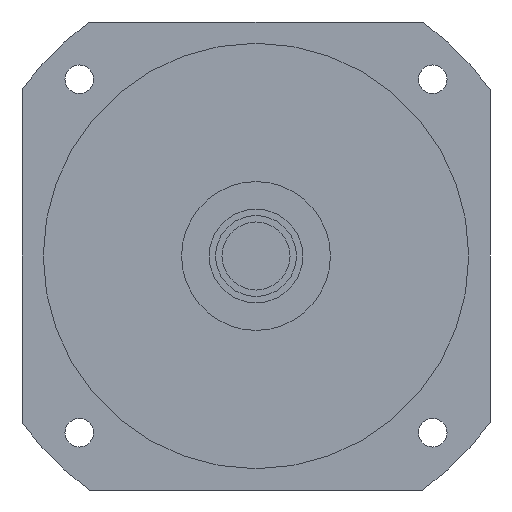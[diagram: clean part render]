
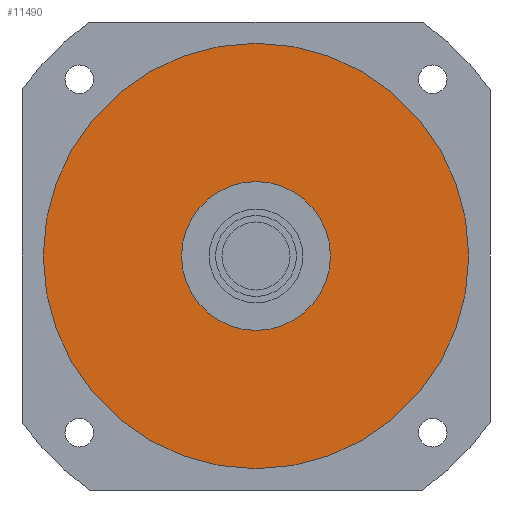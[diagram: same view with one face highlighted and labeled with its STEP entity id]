
A CAD part, left-side view. The second image highlights one B-rep face of the part: STEP entity #11490.
In plain terms, the highlighted planar face has unit normal (-1, 0, 0) as drawn and (0, 0, -1) by its records, which use the part's own axes.
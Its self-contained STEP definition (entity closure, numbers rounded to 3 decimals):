
#10930=CARTESIAN_POINT('',(-35.,0.,-79.7));
#10940=VERTEX_POINT('',#10930);
#10970=CARTESIAN_POINT('',(0.,0.,
-79.7));
#10980=DIRECTION('',(0.,0.,1.));
#10990=DIRECTION('',(0.,1.,0.));
#11000=AXIS2_PLACEMENT_3D('',#10970,#10980,#10990);
#11010=CIRCLE('',#11000,35.);
#11020=CARTESIAN_POINT('',(35.,0.,-79.7));
#11030=VERTEX_POINT('',#11020);
#11040=EDGE_CURVE('',#10940,#11030,#11010,.T.);
#11160=CARTESIAN_POINT('',(0.,0.,
-79.7));
#11170=DIRECTION('',(0.,0.,1.));
#11180=DIRECTION('',(-1.,0.,0.));
#11190=AXIS2_PLACEMENT_3D('',#11160,#11170,#11180);
#11200=PLANE('',#11190);
#11210=ORIENTED_EDGE('',*,*,#11040,.T.);
#11220=CARTESIAN_POINT('',(0.,35.,-79.7));
#11230=VERTEX_POINT('',#11220);
#11240=EDGE_CURVE('',#11230,#10940,#11010,.T.);
#11250=ORIENTED_EDGE('',*,*,#11240,.T.);
#11260=EDGE_CURVE('',#11030,#11230,#11010,.T.);
#11270=ORIENTED_EDGE('',*,*,#11260,.T.);
#11280=EDGE_LOOP('',(#11270,#11250,#11210));
#11290=FACE_BOUND('',#11280,.T.);
#11300=CARTESIAN_POINT('',(0.,0.,
-79.7));
#11310=DIRECTION('',(0.,0.,1.));
#11320=DIRECTION('',(0.,1.,0.));
#11330=AXIS2_PLACEMENT_3D('',#11300,#11310,#11320);
#11340=CIRCLE('',#11330,100.);
#11350=CARTESIAN_POINT('',(0.,100.,-79.7));
#11360=VERTEX_POINT('',#11350);
#11370=CARTESIAN_POINT('',(-100.,0.,-79.7));
#11380=VERTEX_POINT('',#11370);
#11390=EDGE_CURVE('',#11360,#11380,#11340,.T.);
#11400=ORIENTED_EDGE('',*,*,#11390,.F.);
#11410=CARTESIAN_POINT('',(100.,0.,-79.7));
#11420=VERTEX_POINT('',#11410);
#11430=EDGE_CURVE('',#11380,#11420,#11340,.T.);
#11440=ORIENTED_EDGE('',*,*,#11430,.F.);
#11450=EDGE_CURVE('',#11420,#11360,#11340,.T.);
#11460=ORIENTED_EDGE('',*,*,#11450,.F.);
#11470=EDGE_LOOP('',(#11460,#11440,#11400));
#11480=FACE_OUTER_BOUND('',#11470,.T.);
#11490=ADVANCED_FACE('',(#11290,#11480),#11200,.F.);
